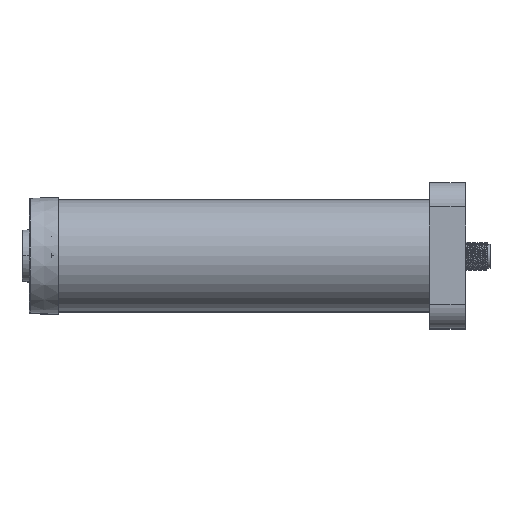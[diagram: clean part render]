
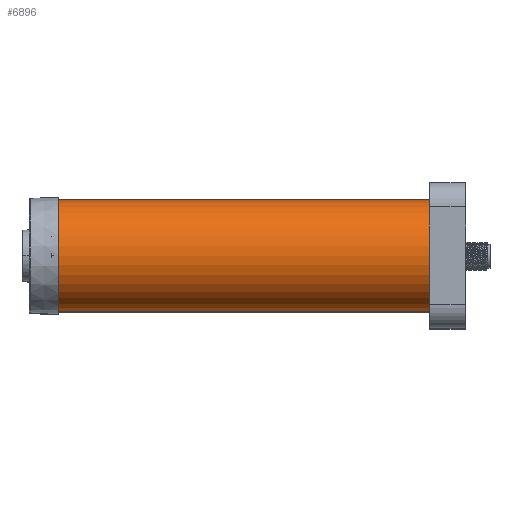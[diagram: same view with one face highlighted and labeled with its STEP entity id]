
A CAD part, top view. The second image highlights one B-rep face of the part: STEP entity #6896.
In plain terms, the highlighted cylindrical face has radius 23 mm (diameter 46 mm), a partial arc.
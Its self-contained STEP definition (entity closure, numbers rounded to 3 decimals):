
#6739=CARTESIAN_POINT('',(0.,79.25,0.));
#6740=DIRECTION('',(0.,-1.,0.));
#6741=DIRECTION('',(1.,0.,0.));
#6742=AXIS2_PLACEMENT_3D('',#6739,#6740,#6741);
#6763=DIRECTION('',(0.,1.,0.));
#6764=VECTOR('',#6763,158.5);
#6765=CARTESIAN_POINT('',(23.,-79.25,0.));
#6766=LINE('',#6765,#6764);
#6770=DIRECTION('',(0.,1.,0.));
#6771=VECTOR('',#6770,158.5);
#6772=CARTESIAN_POINT('',(-23.,-79.25,0.));
#6773=LINE('',#6772,#6771);
#6785=CARTESIAN_POINT('',(0.,-79.25,0.));
#6786=DIRECTION('',(0.,-1.,0.));
#6787=DIRECTION('',(1.,0.,0.));
#6788=AXIS2_PLACEMENT_3D('',#6785,#6786,#6787);
#6823=CARTESIAN_POINT('',(-23.,79.25,0.));
#6824=CARTESIAN_POINT('',(23.,79.25,0.));
#6825=VERTEX_POINT('',#6823);
#6826=VERTEX_POINT('',#6824);
#6831=CARTESIAN_POINT('',(-23.,-79.25,0.));
#6832=CARTESIAN_POINT('',(23.,-79.25,0.));
#6833=VERTEX_POINT('',#6831);
#6834=VERTEX_POINT('',#6832);
#6884=CARTESIAN_POINT('',(0.,79.25,0.));
#6885=DIRECTION('',(0.,1.,0.));
#6886=DIRECTION('',(1.,0.,0.));
#6887=AXIS2_PLACEMENT_3D('',#6884,#6885,#6886);
#6888=CYLINDRICAL_SURFACE('',#6887,23.);
#6889=ORIENTED_EDGE('',*,*,#6846,.F.);
#6890=ORIENTED_EDGE('',*,*,#6879,.F.);
#6892=ORIENTED_EDGE('',*,*,#6891,.T.);
#6893=ORIENTED_EDGE('',*,*,#6875,.T.);
#6894=EDGE_LOOP('',(#6889,#6890,#6892,#6893));
#6895=FACE_OUTER_BOUND('',#6894,.F.);
#6743=CIRCLE('',#6742,23.);
#6789=CIRCLE('',#6788,23.);
#6846=EDGE_CURVE('',#6826,#6825,#6743,.T.);
#6875=EDGE_CURVE('',#6833,#6825,#6773,.T.);
#6879=EDGE_CURVE('',#6834,#6826,#6766,.T.);
#6891=EDGE_CURVE('',#6834,#6833,#6789,.T.);
#6896=ADVANCED_FACE('',(#6895),#6888,.T.);
